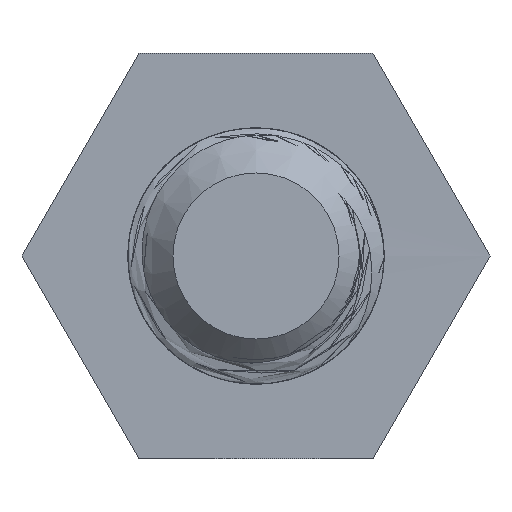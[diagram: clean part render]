
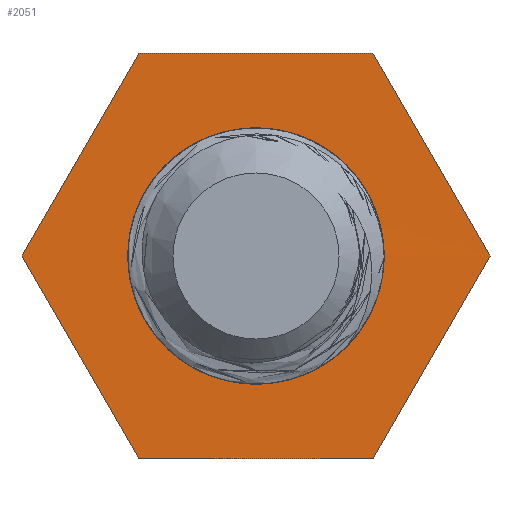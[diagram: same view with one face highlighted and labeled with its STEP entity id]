
A CAD part, front view. The second image highlights one B-rep face of the part: STEP entity #2051.
In plain terms, the highlighted planar face has unit normal (0, -1, 0).
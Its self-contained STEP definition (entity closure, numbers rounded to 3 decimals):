
#9 = CARTESIAN_POINT ( 'NONE',  ( 1.333, 0., -0.506 ) ) ;
#27 = CARTESIAN_POINT ( 'NONE',  ( 1.422, -0.004, 0. ) ) ;
#63 = CARTESIAN_POINT ( 'NONE',  ( -1.278, 0., -0.646 ) ) ;
#102 = CARTESIAN_POINT ( 'NONE',  ( 0.196, 0., -1.418 ) ) ;
#135 = PLANE ( 'NONE',  #324 ) ;
#140 = CARTESIAN_POINT ( 'NONE',  ( -1.357, 0., 0.454 ) ) ;
#223 = VERTEX_POINT ( 'NONE', #731 ) ;
#253 = B_SPLINE_CURVE_WITH_KNOTS ( 'NONE', 3,
 ( #1236, #386, #406, #1520, #102, #650, #1256, #350, #2999, #2938, #2653, #63, #2130, #1859, #3544, #2090, #140, #1214, #1800, #689, #2372, #2955, #3525, #3015, #706, #2712, #3241, #1540, #632, #2671, #930, #2694, #1290, #986 ),
 .UNSPECIFIED., .F., .F.,
 ( 4, 2, 2, 2, 2, 2, 2, 2, 2, 2, 2, 2, 2, 2, 2, 2, 4 ),
 ( 0.389, 0.442, 0.496, 0.55, 0.604, 0.658, 0.712, 0.765, 0.819, 0.873, 0.927, 0.981, 1.035, 1.088, 1.142, 1.196, 1.25 ),
 .UNSPECIFIED. ) ;
#264 = DIRECTION ( 'NONE',  ( -0.5, 0., 0.866 ) ) ;
#324 = AXIS2_PLACEMENT_3D ( 'NONE', #453, #3294, #1837 ) ;
#350 = CARTESIAN_POINT ( 'NONE',  ( -0.592, 0., -1.303 ) ) ;
#386 = CARTESIAN_POINT ( 'NONE',  ( 0.794, 0., -1.192 ) ) ;
#406 = CARTESIAN_POINT ( 'NONE',  ( 0.654, 0., -1.273 ) ) ;
#427 = VERTEX_POINT ( 'NONE', #1061 ) ;
#453 = CARTESIAN_POINT ( 'NONE',  ( 0., 0., 0. ) ) ;
#546 = EDGE_CURVE ( 'NONE', #828, #3618, #824, .T. ) ;
#580 = CARTESIAN_POINT ( 'NONE',  ( -1.299, 0., -2.25 ) ) ;
#599 = VECTOR ( 'NONE', #1435, 1000. ) ;
#610 = B_SPLINE_CURVE_WITH_KNOTS ( 'NONE', 3,
 ( #27, #914, #1695, #1713, #9, #1179, #2874, #2308, #2056, #2573 ),
 .UNSPECIFIED., .F., .F.,
 ( 4, 2, 2, 2, 4 ),
 ( 0.25, 0.285, 0.319, 0.354, 0.389 ),
 .UNSPECIFIED. ) ;
#632 = CARTESIAN_POINT ( 'NONE',  ( 1.009, 0., 1.015 ) ) ;
#650 = CARTESIAN_POINT ( 'NONE',  ( -0.128, 0., -1.426 ) ) ;
#689 = CARTESIAN_POINT ( 'NONE',  ( -0.904, 0., 1.11 ) ) ;
#706 = CARTESIAN_POINT ( 'NONE',  ( 0.151, 0., 1.424 ) ) ;
#731 = CARTESIAN_POINT ( 'NONE',  ( 1.422, -0.004, 0. ) ) ;
#766 = ORIENTED_EDGE ( 'NONE', *, *, #2560, .T. ) ;
#788 = ORIENTED_EDGE ( 'NONE', *, *, #2664, .F. ) ;
#824 = LINE ( 'NONE', #2226, #3466 ) ;
#828 = VERTEX_POINT ( 'NONE', #1786 ) ;
#877 = CARTESIAN_POINT ( 'NONE',  ( -2.598, 0., 0. ) ) ;
#914 = CARTESIAN_POINT ( 'NONE',  ( 1.422, 0., -0.104 ) ) ;
#930 = CARTESIAN_POINT ( 'NONE',  ( 1.289, 0., 0.623 ) ) ;
#932 = CARTESIAN_POINT ( 'NONE',  ( -2.598, 0., 0. ) ) ;
#986 = CARTESIAN_POINT ( 'NONE',  ( 1.422, -0.004, 0. ) ) ;
#1061 = CARTESIAN_POINT ( 'NONE',  ( 1.299, 0., -2.25 ) ) ;
#1157 = LINE ( 'NONE', #877, #1956 ) ;
#1179 = CARTESIAN_POINT ( 'NONE',  ( 1.246, 0., -0.694 ) ) ;
#1214 = CARTESIAN_POINT ( 'NONE',  ( -1.222, 0., 0.747 ) ) ;
#1218 = EDGE_LOOP ( 'NONE', ( #766, #1674 ) ) ;
#1236 = CARTESIAN_POINT ( 'NONE',  ( 0.916, 0., -1.089 ) ) ;
#1256 = CARTESIAN_POINT ( 'NONE',  ( -0.287, 0., -1.403 ) ) ;
#1278 = VERTEX_POINT ( 'NONE', #3456 ) ;
#1290 = CARTESIAN_POINT ( 'NONE',  ( 1.422, 0., 0.162 ) ) ;
#1319 = DIRECTION ( 'NONE',  ( 0.5, 0., 0.866 ) ) ;
#1329 = ORIENTED_EDGE ( 'NONE', *, *, #2535, .F. ) ;
#1386 = VECTOR ( 'NONE', #2729, 1000. ) ;
#1421 = CARTESIAN_POINT ( 'NONE',  ( 1.299, 0., 2.25 ) ) ;
#1435 = DIRECTION ( 'NONE',  ( -1., 0., 0. ) ) ;
#1451 = LINE ( 'NONE', #1731, #599 ) ;
#1520 = CARTESIAN_POINT ( 'NONE',  ( 0.352, 0., -1.388 ) ) ;
#1540 = CARTESIAN_POINT ( 'NONE',  ( 0.886, 0., 1.124 ) ) ;
#1544 = VERTEX_POINT ( 'NONE', #932 ) ;
#1574 = DIRECTION ( 'NONE',  ( 0.5, 0., -0.866 ) ) ;
#1670 = DIRECTION ( 'NONE',  ( 1., 0., 0. ) ) ;
#1674 = ORIENTED_EDGE ( 'NONE', *, *, #3093, .T. ) ;
#1695 = CARTESIAN_POINT ( 'NONE',  ( 1.411, 0., -0.207 ) ) ;
#1713 = CARTESIAN_POINT ( 'NONE',  ( 1.367, 0., -0.407 ) ) ;
#1731 = CARTESIAN_POINT ( 'NONE',  ( 1.299, 0., -2.25 ) ) ;
#1786 = CARTESIAN_POINT ( 'NONE',  ( -1.299, 0., 2.25 ) ) ;
#1800 = CARTESIAN_POINT ( 'NONE',  ( -1.131, 0., 0.878 ) ) ;
#1837 = DIRECTION ( 'NONE',  ( 0., 0., 1. ) ) ;
#1842 = LINE ( 'NONE', #3563, #2710 ) ;
#1859 = CARTESIAN_POINT ( 'NONE',  ( -1.42, 0., -0.185 ) ) ;
#1956 = VECTOR ( 'NONE', #1319, 1000. ) ;
#1962 = ORIENTED_EDGE ( 'NONE', *, *, #2002, .F. ) ;
#2002 = EDGE_CURVE ( 'NONE', #1544, #828, #1157, .T. ) ;
#2051 = ADVANCED_FACE ( 'NONE', ( #3311, #3558 ), #135, .F. ) ;
#2056 = CARTESIAN_POINT ( 'NONE',  ( 0.995, 0., -1.022 ) ) ;
#2090 = CARTESIAN_POINT ( 'NONE',  ( -1.4, 0., 0.298 ) ) ;
#2130 = CARTESIAN_POINT ( 'NONE',  ( -1.343, 0., -0.494 ) ) ;
#2150 = CARTESIAN_POINT ( 'NONE',  ( 2.598, 0., 0. ) ) ;
#2226 = CARTESIAN_POINT ( 'NONE',  ( -1.299, 0., 2.25 ) ) ;
#2308 = CARTESIAN_POINT ( 'NONE',  ( 1.068, 0., -0.946 ) ) ;
#2372 = CARTESIAN_POINT ( 'NONE',  ( -0.775, 0., 1.204 ) ) ;
#2510 = VERTEX_POINT ( 'NONE', #3726 ) ;
#2535 = EDGE_CURVE ( 'NONE', #427, #1278, #1451, .T. ) ;
#2560 = EDGE_CURVE ( 'NONE', #223, #3228, #610, .T. ) ;
#2573 = CARTESIAN_POINT ( 'NONE',  ( 0.916, 0., -1.089 ) ) ;
#2653 = CARTESIAN_POINT ( 'NONE',  ( -1.103, 0., -0.913 ) ) ;
#2664 = EDGE_CURVE ( 'NONE', #1278, #1544, #3439, .T. ) ;
#2671 = CARTESIAN_POINT ( 'NONE',  ( 1.21, 0., 0.766 ) ) ;
#2694 = CARTESIAN_POINT ( 'NONE',  ( 1.396, 0., 0.32 ) ) ;
#2698 = ORIENTED_EDGE ( 'NONE', *, *, #546, .F. ) ;
#2710 = VECTOR ( 'NONE', #1574, 1000. ) ;
#2712 = CARTESIAN_POINT ( 'NONE',  ( 0.463, 0., 1.355 ) ) ;
#2729 = DIRECTION ( 'NONE',  ( -0.5, 0., -0.866 ) ) ;
#2810 = EDGE_LOOP ( 'NONE', ( #2698, #1962, #788, #1329, #3052, #3548 ) ) ;
#2874 = CARTESIAN_POINT ( 'NONE',  ( 1.193, 0., -0.782 ) ) ;
#2938 = CARTESIAN_POINT ( 'NONE',  ( -0.991, 0., -1.033 ) ) ;
#2955 = CARTESIAN_POINT ( 'NONE',  ( -0.486, 0., 1.346 ) ) ;
#2999 = CARTESIAN_POINT ( 'NONE',  ( -0.737, 0., -1.227 ) ) ;
#3014 = VECTOR ( 'NONE', #264, 1000. ) ;
#3015 = CARTESIAN_POINT ( 'NONE',  ( -0.013, 0., 1.431 ) ) ;
#3052 = ORIENTED_EDGE ( 'NONE', *, *, #3502, .F. ) ;
#3093 = EDGE_CURVE ( 'NONE', #3228, #223, #253, .T. ) ;
#3228 = VERTEX_POINT ( 'NONE', #3261 ) ;
#3241 = CARTESIAN_POINT ( 'NONE',  ( 0.615, 0., 1.292 ) ) ;
#3261 = CARTESIAN_POINT ( 'NONE',  ( 0.916, 0., -1.089 ) ) ;
#3294 = DIRECTION ( 'NONE',  ( 0., 1., 0. ) ) ;
#3311 = FACE_BOUND ( 'NONE', #1218, .T. ) ;
#3335 = EDGE_CURVE ( 'NONE', #3618, #2510, #1842, .T. ) ;
#3439 = LINE ( 'NONE', #580, #3014 ) ;
#3456 = CARTESIAN_POINT ( 'NONE',  ( -1.299, 0., -2.25 ) ) ;
#3466 = VECTOR ( 'NONE', #1670, 1000. ) ;
#3502 = EDGE_CURVE ( 'NONE', #2510, #427, #3596, .T. ) ;
#3525 = CARTESIAN_POINT ( 'NONE',  ( -0.331, 0., 1.393 ) ) ;
#3544 = CARTESIAN_POINT ( 'NONE',  ( -1.431, 0., -0.021 ) ) ;
#3548 = ORIENTED_EDGE ( 'NONE', *, *, #3335, .F. ) ;
#3558 = FACE_OUTER_BOUND ( 'NONE', #2810, .T. ) ;
#3563 = CARTESIAN_POINT ( 'NONE',  ( 1.299, 0., 2.25 ) ) ;
#3596 = LINE ( 'NONE', #2150, #1386 ) ;
#3618 = VERTEX_POINT ( 'NONE', #1421 ) ;
#3726 = CARTESIAN_POINT ( 'NONE',  ( 2.598, 0., 0. ) ) ;
